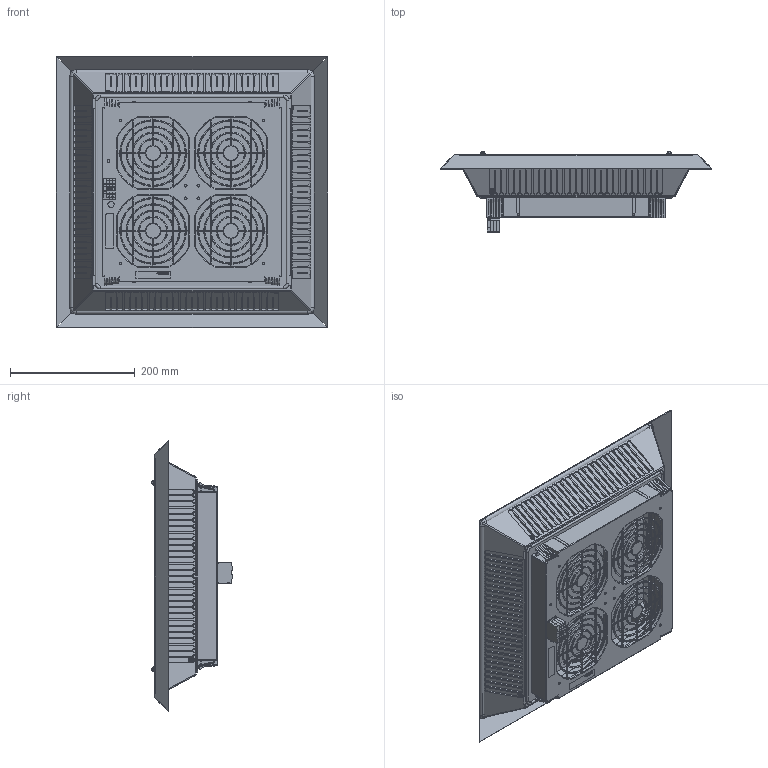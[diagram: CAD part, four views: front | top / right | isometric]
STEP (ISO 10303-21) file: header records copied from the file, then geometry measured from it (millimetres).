
FILE_DESCRIPTION (( 'STEP AP203' ), '1' );
FILE_NAME ('PTF 60500.STEP', '2010-07-22T14:03:01', ( ' ' ), ( ' ' ), 'SwSTEP 2.0', 'SolidWorks 2010', '' );
FILE_SCHEMA (( 'CONFIG_CONTROL_DESIGN' ));
Length unit declared in the file: millimetre
Products named in the file (1): PTF 60500
Bounding box: 436 x 129 x 436 mm (x, y, z)
Surface area: 907921.8 mm2 (no closed solid volume)
Topology: 0 solids, 209 shells, 3121 faces, 11343 edges, 7907 vertices
Faces by surface type: cylinder 1323, plane 1113, bspline 398, torus 267, sphere 10, cone 10
Entity records: 147368 total; most frequent: CARTESIAN_POINT 60646, DIRECTION 16711, ORIENTED_EDGE 15742, EDGE_CURVE 11081, VERTEX_POINT 7907, VECTOR 6227, LINE 6227, AXIS2_PLACEMENT_3D 5242
